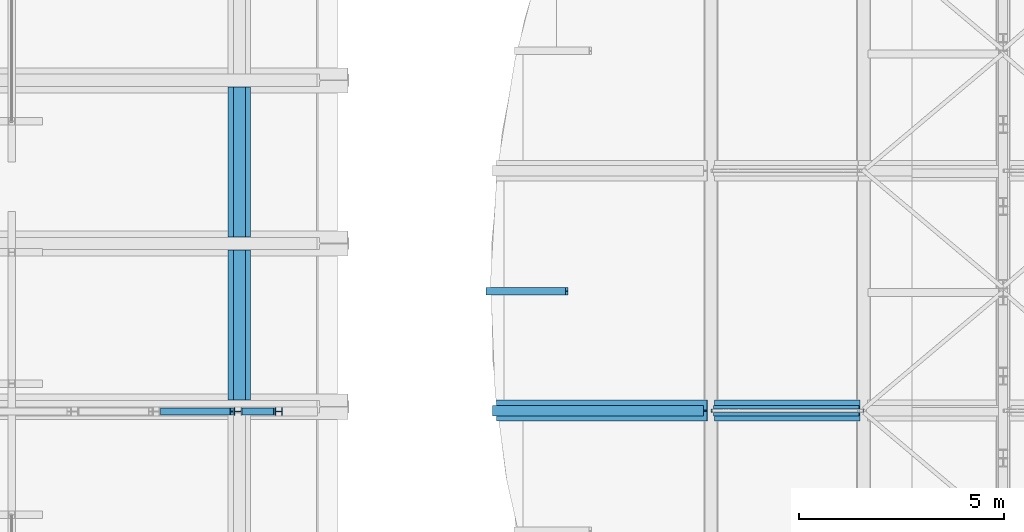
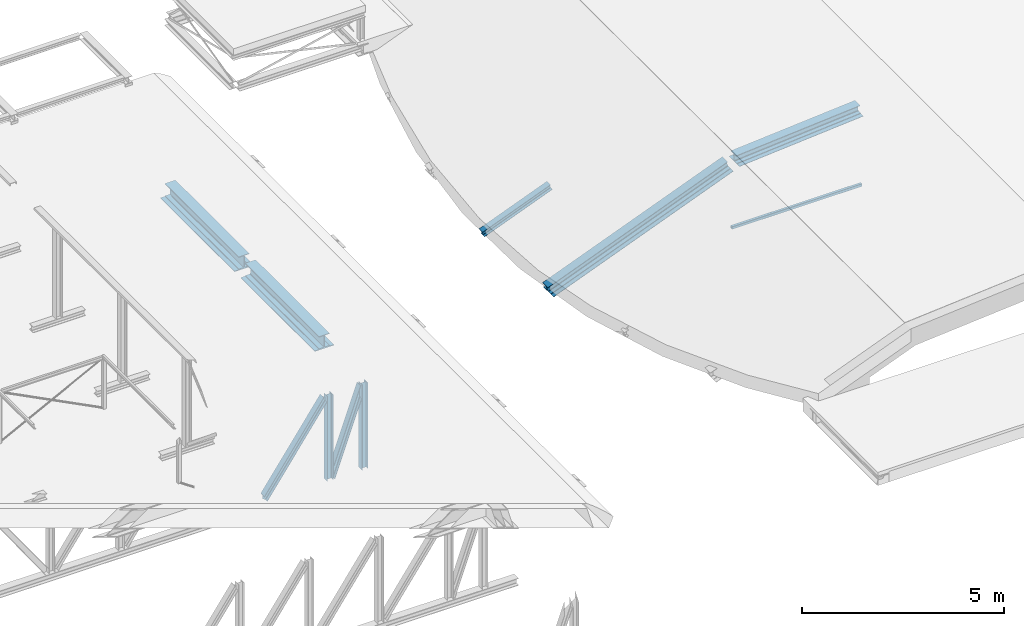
# One storey, part 21 of 50: 10 beams.
"""IFC2X3 building model written with IfcOpenShell, lengths in millimetres."""

from ifc_helpers import new_model, entity, si_unit, converted_unit, derived_unit, direction, frame, frame_2d, origin, place, context, subcontext, project, spatial, polyline, circle_curve, parameter, trimmed, segment, composite_curve, rectangle, i_section, outline, extrude, clip, halfspace, source, transform, mapped, material, material_list, type_object, type_shapes, element, save


model = new_model("IFC2X3")

# Units and contexts
model_context = context("Model", 3, precision=0.01, world=origin(), true_north=direction((6.12303176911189e-17, 1.0)))
body_context = subcontext(model_context, "Body", "Model", "MODEL_VIEW")
ifc_project = project(units=[si_unit("LENGTHUNIT", "METRE", prefix="MILLI"), si_unit("AREAUNIT", "SQUARE_METRE", prefix="MILLI"), si_unit("VOLUMEUNIT", "CUBIC_METRE"), converted_unit("PLANEANGLEUNIT", "DEGREE", entity("IfcRatioMeasure", 0.0174532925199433), si_unit("PLANEANGLEUNIT", "RADIAN"), dimensions=[0, 0, 0, 0, 0, 0, 0]), si_unit("MASSUNIT", "GRAM", prefix="KILO"), derived_unit("MASSDENSITYUNIT", [(si_unit("MASSUNIT", "GRAM", prefix="KILO"), 1), (si_unit("LENGTHUNIT", "METRE"), -3)]), derived_unit("MOMENTOFINERTIAUNIT", [(si_unit("LENGTHUNIT", "METRE"), 4)]), si_unit("TIMEUNIT", "SECOND"), si_unit("FREQUENCYUNIT", "HERTZ"), si_unit("THERMODYNAMICTEMPERATUREUNIT", "DEGREE_CELSIUS"), derived_unit("THERMALTRANSMITTANCEUNIT", [(si_unit("MASSUNIT", "GRAM", prefix="KILO"), 1), (si_unit("THERMODYNAMICTEMPERATUREUNIT", "KELVIN"), -1), (si_unit("TIMEUNIT", "SECOND"), -3)]), derived_unit("VOLUMETRICFLOWRATEUNIT", [(si_unit("LENGTHUNIT", "METRE"), 3), (si_unit("TIMEUNIT", "SECOND"), -1)]), si_unit("ELECTRICCURRENTUNIT", "AMPERE"), si_unit("ELECTRICVOLTAGEUNIT", "VOLT"), si_unit("POWERUNIT", "WATT"), si_unit("FORCEUNIT", "NEWTON", prefix="KILO"), si_unit("ILLUMINANCEUNIT", "LUX"), si_unit("LUMINOUSFLUXUNIT", "LUMEN"), si_unit("LUMINOUSINTENSITYUNIT", "CANDELA"), derived_unit("USERDEFINED", [(si_unit("MASSUNIT", "GRAM", prefix="KILO"), -1), (si_unit("LENGTHUNIT", "METRE"), -2), (si_unit("TIMEUNIT", "SECOND"), 3), (si_unit("LUMINOUSFLUXUNIT", "LUMEN"), 1)]), derived_unit("LINEARVELOCITYUNIT", [(si_unit("LENGTHUNIT", "METRE"), 1), (si_unit("TIMEUNIT", "SECOND"), -1)]), si_unit("PRESSUREUNIT", "PASCAL"), derived_unit("USERDEFINED", [(si_unit("LENGTHUNIT", "METRE"), -2), (si_unit("MASSUNIT", "GRAM", prefix="KILO"), 1), (si_unit("TIMEUNIT", "SECOND"), -2)]), derived_unit("LINEARFORCEUNIT", [(si_unit("MASSUNIT", "GRAM", prefix="KILO"), 1), (si_unit("LENGTHUNIT", "METRE"), 1), (si_unit("TIMEUNIT", "SECOND"), -2), (si_unit("LENGTHUNIT", "METRE"), -1)]), derived_unit("PLANARFORCEUNIT", [(si_unit("MASSUNIT", "GRAM", prefix="KILO"), 1), (si_unit("LENGTHUNIT", "METRE"), 1), (si_unit("TIMEUNIT", "SECOND"), -2), (si_unit("LENGTHUNIT", "METRE"), -2)])], contexts=[model_context])

# Site, building, storey
site_placement = place(None, origin())
site = spatial("IfcSite", under=ifc_project, at=site_placement, Name="Theater aan de Parade", CompositionType="ELEMENT")
building_placement = place(site_placement, origin())
building = spatial("IfcBuilding", under=site, at=building_placement, Name="Theater aan de Parade", CompositionType="ELEMENT")
storey_placement = place(building_placement, frame((0.0, 0.0, 15820.0)))
storey = spatial("IfcBuildingStorey", under=building, at=storey_placement, Name="04 vierde verdieping", CompositionType="ELEMENT", Elevation=15820.0)

# Beams
ifc_material_1 = material(Name="00_PBT_MAT_staal_S355")
beam_type_1 = type_object("IfcBeamType", Name="28_PBT_SF_staal_H-profiel:S355_HE180A", PredefinedType="NOTDEFINED")
beam_1_placement = place(storey_placement, frame((34071.8569884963, 29518.2922984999, -4340.0), z_axis=(1.0, 0.0, 0.0), x_axis=(0.0, 0.0, 1.0)))
element("IfcBeam", 1, at=beam_1_placement, inside=storey, type_object=beam_type_1, material=ifc_material_1, Name="28_PBT_SF_staal_H-profiel:S355_HE180A", ObjectType="28_PBT_SF_staal_H-profiel:S355_HE180A", context=body_context, shape_type="SweptSolid", body=[
    extrude(i_section(OverallWidth=179.999999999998, OverallDepth=171.0, WebThickness=6.00000000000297, FlangeThickness=9.49999999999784, FilletRadius=15.0000000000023, at=frame_2d((-2.16715534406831e-12, -2.16715534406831e-12), x_axis=(0.0, 1.0))), frame((122.7, 0.0, 0.0), z_axis=(1.0, 0.0, 0.0), x_axis=(0.0, 0.0, -1.0)), (0.0, 0.0, 1.0), 2574.60000000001),
])
beam_2_placement = place(storey_placement, frame((35067.8569884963, 29518.2922984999, -4340.0), z_axis=(1.0, 0.0, 0.0), x_axis=(0.0, 0.0, 1.0)))
element("IfcBeam", 2, at=beam_2_placement, inside=storey, type_object=beam_type_1, material=ifc_material_1, Name="28_PBT_SF_staal_H-profiel:S355_HE180A", ObjectType="28_PBT_SF_staal_H-profiel:S355_HE180A", context=body_context, shape_type="SweptSolid", body=[
    extrude(i_section(OverallWidth=179.999999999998, OverallDepth=171.0, WebThickness=6.00000000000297, FlangeThickness=9.49999999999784, FilletRadius=15.0000000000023, at=frame_2d((-2.16715534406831e-12, -2.16715534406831e-12), x_axis=(0.0, 1.0))), frame((110.0, 0.0, 0.0), z_axis=(1.0, 0.0, 0.0), x_axis=(0.0, 0.0, -1.0)), (0.0, 0.0, 1.0), 2587.29999999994),
])
beam_3_placement = place(storey_placement, frame((32079.8569884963, 29518.2922984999, -4340.0), z_axis=(0.816775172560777, 0.0, -0.576956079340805), x_axis=(0.576956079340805, 0.0, 0.816775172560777)))
element("IfcBeam", 3, at=beam_3_placement, inside=storey, type_object=beam_type_1, material=ifc_material_1, Name="28_PBT_SF_staal_H-profiel:S355_HE180A", ObjectType="28_PBT_SF_staal_H-profiel:S355_HE180A", context=body_context, shape_type="Clipping", body=[
    clip(clip(extrude(outline(composite_curve([segment(polyline([(76.0, -90.0), (85.5000000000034, -90.0)]), True, "CONTINUOUS"), segment(polyline([(85.499999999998, -90.0), (85.4999999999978, 90.0)]), True, "CONTINUOUS"), segment(polyline([(85.4999999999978, 90.0), (76.0, 90.0)]), True, "CONTINUOUS"), segment(polyline([(76.0, 90.0), (76.0, 18.0)]), True, "CONTINUOUS"), segment(trimmed(circle_curve(frame_2d((61.0, 18.0), x_axis=(1.0, 0.0)), 14.9999999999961), [parameter(269.999999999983)], [parameter(0.0)], True, "PARAMETER"), False, "CONTINUOUS"), segment(polyline([(61.0, 3.0), (-61.0, 3.0)]), True, "CONTINUOUS"), segment(trimmed(circle_curve(frame_2d((-61.0, 18.0), x_axis=(0.0, -1.0)), 14.9999999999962), [parameter(269.999999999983)], [parameter(0.0)], True, "PARAMETER"), False, "CONTINUOUS"), segment(polyline([(-76.0, 18.0), (-76.0, 90.0)]), True, "CONTINUOUS"), segment(polyline([(-76.0, 90.0), (-85.4999999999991, 90.0)]), True, "CONTINUOUS"), segment(polyline([(-85.4999999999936, 90.0), (-85.4999999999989, -90.0)]), True, "CONTINUOUS"), segment(polyline([(-85.4999999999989, -90.0), (-76.0, -90.0)]), True, "CONTINUOUS"), segment(polyline([(-76.0, -90.0), (-76.0, -18.0)]), True, "CONTINUOUS"), segment(trimmed(circle_curve(frame_2d((-61.0, -18.0), x_axis=(-1.0, 0.0)), 14.9999999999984), [parameter(269.999999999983)], [parameter(0.0)], True, "PARAMETER"), False, "CONTINUOUS"), segment(polyline([(-61.0, -3.0), (61.0, -3.0)]), True, "CONTINUOUS"), segment(trimmed(circle_curve(frame_2d((61.0, -18.0), x_axis=(0.0, 1.0)), 14.9999999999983), [parameter(269.999999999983)], [parameter(0.0)], True, "PARAMETER"), False, "CONTINUOUS"), segment(polyline([(76.0, -18.0), (76.0, -90.0)]), True, "CONTINUOUS")], self_intersect=False)), frame((207.771728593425, 0.0, 0.0), z_axis=(1.0, 0.0, 0.0), x_axis=(0.0, 0.0, -1.0)), (0.0, 0.0, 1.0), 3037.0590394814), halfspace(frame((144.751676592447, -110.0, 26.9163913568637), z_axis=(-0.576956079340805, 0.0, -0.816775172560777), x_axis=(0.816775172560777, 0.0, -0.576956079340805)), False)), halfspace(frame((1172.31045389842, 110.0, 1481.5929736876), z_axis=(0.576956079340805, 0.0, 0.816775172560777), x_axis=(0.816775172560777, 0.0, -0.576956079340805)), False)),
])
beam_4_placement = place(storey_placement, frame((34071.8569884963, 29518.2922984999, -4340.0), z_axis=(0.942916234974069, 0.0, -0.333029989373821), x_axis=(0.333029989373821, 0.0, 0.942916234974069)))
element("IfcBeam", 4, at=beam_4_placement, inside=storey, type_object=beam_type_1, material=ifc_material_1, Name="28_PBT_SF_staal_H-profiel:S355_HE180A", ObjectType="28_PBT_SF_staal_H-profiel:S355_HE180A", context=body_context, shape_type="Clipping", body=[
    clip(clip(extrude(outline(composite_curve([segment(polyline([(76.0, -90.0), (85.4999999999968, -90.0)]), True, "CONTINUOUS"), segment(polyline([(85.4999999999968, -90.0), (85.4999999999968, 90.0)]), True, "CONTINUOUS"), segment(polyline([(85.4999999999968, 90.0), (76.0, 90.0)]), True, "CONTINUOUS"), segment(polyline([(76.0, 90.0), (76.0, 18.0)]), True, "CONTINUOUS"), segment(trimmed(circle_curve(frame_2d((61.0, 18.0), x_axis=(1.0, 0.0)), 14.9999999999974), [parameter(269.999999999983)], [parameter(0.0)], True, "PARAMETER"), False, "CONTINUOUS"), segment(polyline([(61.0, 3.0), (-61.0, 3.0)]), True, "CONTINUOUS"), segment(trimmed(circle_curve(frame_2d((-61.0, 18.0), x_axis=(0.0, -1.0)), 15.0000000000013), [parameter(270.000000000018)], [parameter(0.0)], True, "PARAMETER"), False, "CONTINUOUS"), segment(polyline([(-76.0, 18.0), (-76.0, 90.0)]), True, "CONTINUOUS"), segment(polyline([(-76.0, 90.0), (-85.5000000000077, 90.0)]), True, "CONTINUOUS"), segment(polyline([(-85.5000000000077, 90.0), (-85.5000000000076, -90.0)]), True, "CONTINUOUS"), segment(polyline([(-85.5000000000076, -90.0), (-76.0, -90.0)]), True, "CONTINUOUS"), segment(polyline([(-76.0, -90.0), (-76.0, -18.0)]), True, "CONTINUOUS"), segment(trimmed(circle_curve(frame_2d((-61.0, -18.0), x_axis=(-1.0, 0.0)), 14.9999999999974), [parameter(269.999999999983)], [parameter(0.0)], True, "PARAMETER"), False, "CONTINUOUS"), segment(polyline([(-61.0, -3.0), (61.0, -3.0)]), True, "CONTINUOUS"), segment(trimmed(circle_curve(frame_2d((61.0, -18.0), x_axis=(0.0, 1.0)), 14.9999999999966), [parameter(269.999999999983)], [parameter(0.0)], True, "PARAMETER"), False, "CONTINUOUS"), segment(polyline([(76.0, -18.0), (76.0, -90.0)]), True, "CONTINUOUS")], self_intersect=False)), frame((159.557227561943, 0.0, 0.0), z_axis=(1.0, 0.0, 0.0), x_axis=(0.0, 0.0, -1.0)), (0.0, 0.0, 1.0), 2671.60719691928), halfspace(frame((131.972161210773, -110.0, 65.2754828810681), z_axis=(-0.333029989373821, 0.0, -0.942916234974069), x_axis=(0.942916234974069, 0.0, -0.333029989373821)), False)), halfspace(frame((381.425666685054, 110.0, 809.694208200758), z_axis=(0.333029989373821, 0.0, 0.942916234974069), x_axis=(0.942916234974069, 0.0, -0.333029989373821)), False)),
])
beam_5_placement = place(storey_placement, frame((40077.3191645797, 32450.0, -487.555637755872), z_axis=(-0.363251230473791, 0.0, 0.931691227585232), x_axis=(0.931691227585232, 0.0, 0.363251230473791)))
element("IfcBeam", 5, at=beam_5_placement, inside=storey, type_object=beam_type_1, material=ifc_material_1, Name="28_PBT_SF_staal_H-profiel:S355_HE180A", ObjectType="28_PBT_SF_staal_H-profiel:S355_HE180A", context=body_context, shape_type="SweptSolid", body=[
    extrude(i_section(OverallWidth=180.000000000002, OverallDepth=170.999999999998, WebThickness=6.00000000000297, FlangeThickness=9.49999999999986, FilletRadius=14.9999999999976, at=frame_2d((-2.02504679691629e-12, 2.16715534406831e-12), x_axis=(0.0, 1.0))), frame((0.0, 0.0, -205.500000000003), z_axis=(1.0, 0.0, 0.0), x_axis=(0.0, 0.0, -1.0)), (0.0, 0.0, 1.0), 2084.9855609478),
])
ifc_material_2 = material(Name="00_PBT_MAT_Lucht")
ifc_material_list_1 = material_list([ifc_material_2, ifc_material_1])
beam_type_2 = type_object("IfcBeamType", Name="28_PBT_SF_staal_H-profiel_met_onderplaat (void):S355_HE260A + onderplaat d=12", PredefinedType="BEAM", material=ifc_material_list_1)
shared_shape_1 = source(origin(), body_context, "Body", "SweptSolid", [
    extrude(rectangle(XDim=12.0, YDim=510.0, at=frame_2d((5.24469356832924e-13, -1.4210854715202e-14), x_axis=(1.0, 0.0))), frame((-1780.0, 0.0, -131.0), z_axis=(1.0, 0.0, 0.0), x_axis=(0.0, 0.0, -1.0)), (0.0, 0.0, 1.0), 3560.00000000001),
    extrude(i_section(OverallWidth=260.0, OverallDepth=250.0, WebThickness=7.49999999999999, FlangeThickness=12.4999999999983, FilletRadius=24.0, at=frame_2d((-3.90798504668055e-13, 0.0), x_axis=(0.0, 1.0))), frame((-1780.0, 0.0, 0.0), z_axis=(1.0, 0.0, 0.0), x_axis=(0.0, 0.0, -1.0)), (0.0, 0.0, 1.0), 3560.00000000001),
])
type_shapes(beam_type_2, [shared_shape_1])
beam_6_placement = place(storey_placement, frame((47462.0504275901, 29537.9879914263, 1577.30470019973), z_axis=(-0.0796770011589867, 0.0, 0.996820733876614), x_axis=(0.996820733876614, 0.0, 0.0796770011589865)))
element("IfcBeam", 6, at=beam_6_placement, inside=storey, type_object=beam_type_2, material=ifc_material_1, Name="28_PBT_SF_staal_H-profiel_met_onderplaat (void):S355_HE260A + onderplaat d=12", ObjectType="28_PBT_SF_staal_H-profiel_met_onderplaat (void):S355_HE260A + onderplaat d=12", context=body_context, shape_type="MappedRepresentation", body=[
    mapped(shared_shape_1, transform((0.0, 0.0, 0.0), scale=1.0)),
])
ifc_material_list_2 = material_list([ifc_material_2, ifc_material_1])
beam_type_3 = type_object("IfcBeamType", Name="28_PBT_SF_staal_H-profiel_met_onderplaat (void):S355_HE260A + onderplaat d=12", PredefinedType="BEAM", material=ifc_material_list_2)
shared_shape_2 = source(origin(), body_context, "Body", "SweptSolid", [
    extrude(rectangle(XDim=12.0, YDim=510.0, at=frame_2d((1.50590651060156e-12, -1.4210854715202e-14), x_axis=(1.0, 0.0))), frame((-2760.0, 0.0, -131.0), z_axis=(1.0, 0.0, 0.0), x_axis=(0.0, 0.0, -1.0)), (0.0, 0.0, 1.0), 5520.0),
    extrude(i_section(OverallWidth=260.0, OverallDepth=250.0, WebThickness=7.49999999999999, FlangeThickness=12.4999999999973, FilletRadius=24.0, at=frame_2d((-4.12114786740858e-13, 0.0), x_axis=(0.0, 1.0))), frame((-2760.0, 0.0, 0.0), z_axis=(1.0, 0.0, 0.0), x_axis=(0.0, 0.0, -1.0)), (0.0, 0.0, 1.0), 5520.0),
])
type_shapes(beam_type_3, [shared_shape_2])
beam_7_placement = place(storey_placement, frame((42902.4010995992, 29537.9879914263, 345.568541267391), z_axis=(-0.363251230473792, 0.0, 0.931691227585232), x_axis=(0.931691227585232, 0.0, 0.363251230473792)))
element("IfcBeam", 7, at=beam_7_placement, inside=storey, type_object=beam_type_3, material=ifc_material_1, Name="28_PBT_SF_staal_H-profiel_met_onderplaat (void):S355_HE260A + onderplaat d=12", ObjectType="28_PBT_SF_staal_H-profiel_met_onderplaat (void):S355_HE260A + onderplaat d=12", context=body_context, shape_type="MappedRepresentation", body=[
    mapped(shared_shape_2, transform((0.0, 0.0, 0.0), scale=1.0)),
])
ifc_material_list_3 = material_list([ifc_material_1, ifc_material_2])
beam_type_4 = type_object("IfcBeamType", Name="28_PBT_SF_staal_H-profiel_met_onderplaat (void):S355_HE400A + onderplaat d=20", PredefinedType="BEAM", material=ifc_material_list_3)
shared_shape_3 = source(origin(), body_context, "Body", "SweptSolid", [
    extrude(rectangle(XDim=20.0, YDim=550.0, at=frame_2d((3.37507799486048e-14, 0.0), x_axis=(1.0, 0.0))), frame((-1832.24999999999, 0.0, -205.0), z_axis=(1.0, 0.0, 0.0), x_axis=(0.0, 0.0, -1.0)), (0.0, 0.0, 1.0), 3664.50000000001),
    extrude(outline(composite_curve([segment(polyline([(176.0, -150.0), (195.0, -150.0)]), True, "CONTINUOUS"), segment(polyline([(195.0, -150.0), (195.0, 150.0)]), True, "CONTINUOUS"), segment(polyline([(195.0, 150.0), (176.0, 150.0)]), True, "CONTINUOUS"), segment(polyline([(176.0, 150.0), (176.0, 32.5)]), True, "CONTINUOUS"), segment(trimmed(circle_curve(frame_2d((149.0, 32.4999999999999), x_axis=(1.0, 0.0)), 26.9999999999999), [parameter(270.0)], [parameter(0.0)], True, "PARAMETER"), False, "CONTINUOUS"), segment(polyline([(149.0, 5.49999999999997), (-149.0, 5.49999999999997)]), True, "CONTINUOUS"), segment(trimmed(circle_curve(frame_2d((-149.0, 32.5), x_axis=(0.0, -1.0)), 27.0), [parameter(270.0)], [parameter(0.0)], True, "PARAMETER"), False, "CONTINUOUS"), segment(polyline([(-176.0, 32.5), (-176.0, 150.0)]), True, "CONTINUOUS"), segment(polyline([(-176.0, 150.0), (-195.0, 150.0)]), True, "CONTINUOUS"), segment(polyline([(-195.0, 150.0), (-195.0, -150.0)]), True, "CONTINUOUS"), segment(polyline([(-195.0, -150.0), (-176.0, -150.0)]), True, "CONTINUOUS"), segment(polyline([(-176.0, -150.0), (-176.0, -32.5)]), True, "CONTINUOUS"), segment(trimmed(circle_curve(frame_2d((-149.0, -32.5), x_axis=(-1.0, 0.0)), 26.9999999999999), [parameter(269.999999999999)], [parameter(0.0)], True, "PARAMETER"), False, "CONTINUOUS"), segment(polyline([(-149.0, -5.50000000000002), (149.0, -5.50000000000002)]), True, "CONTINUOUS"), segment(trimmed(circle_curve(frame_2d((149.0, -32.4999999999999), x_axis=(0.0, 1.0)), 26.9999999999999), [parameter(270.0)], [parameter(0.0)], True, "PARAMETER"), False, "CONTINUOUS"), segment(polyline([(176.0, -32.5), (176.0, -150.0)]), True, "CONTINUOUS")], self_intersect=False)), frame((-1832.24999999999, 0.0, 0.0), z_axis=(1.0, 0.0, 0.0), x_axis=(0.0, 0.0, -1.0)), (0.0, 0.0, 1.0), 3664.50000000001),
])
type_shapes(beam_type_4, [shared_shape_3])
beam_8_placement = place(storey_placement, frame((34109.3570025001, 31624.2274014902, -235.0), z_axis=(0.0, 0.0, 1.0), x_axis=(0.0, 1.0, 0.0)))
element("IfcBeam", 8, at=beam_8_placement, inside=storey, type_object=beam_type_4, material=ifc_material_1, Name="28_PBT_SF_staal_H-profiel_met_onderplaat (void):S355_HE400A + onderplaat d=20", ObjectType="28_PBT_SF_staal_H-profiel_met_onderplaat (void):S355_HE400A + onderplaat d=20", context=body_context, shape_type="MappedRepresentation", body=[
    mapped(shared_shape_3, transform((0.0, 0.0, 0.0), scale=1.0)),
])
ifc_material_list_4 = material_list([ifc_material_2, ifc_material_1])
beam_type_5 = type_object("IfcBeamType", Name="28_PBT_SF_staal_H-profiel_met_onderplaat (void):S355_HE400A + onderplaat d=20", PredefinedType="BEAM", material=ifc_material_list_4)
shared_shape_4 = source(origin(), body_context, "Body", "SweptSolid", [
    extrude(i_section(OverallWidth=300.000000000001, OverallDepth=390.0, WebThickness=11.0000000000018, FlangeThickness=19.0, FilletRadius=26.9999999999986, at=frame_2d((2.17426077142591e-12, -1.08002495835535e-12), x_axis=(1.0, 0.0))), frame((34109.3570025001, 33771.9774014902, 15585.0), z_axis=(0.0, 1.0, 0.0), x_axis=(-1.0, 0.0, 0.0)), (0.0, 0.0, 1.0), 3664.50000000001),
    extrude(rectangle(XDim=19.9999999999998, YDim=550.000000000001, at=frame_2d((2.18847162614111e-12, -1.08268949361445e-12), x_axis=(0.0, 1.0))), frame((34109.3570025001, 33771.9774014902, 15380.0), z_axis=(0.0, 1.0, 0.0), x_axis=(-1.0, 0.0, 0.0)), (0.0, 0.0, 1.0), 3664.50000000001),
])
type_shapes(beam_type_5, [shared_shape_4])
beam_9_placement = place(storey_placement, frame((0.0, 0.0, -15820.0)))
element("IfcBeam", 9, at=beam_9_placement, inside=storey, type_object=beam_type_5, material=ifc_material_1, Name="28_PBT_SF_staal_H-profiel_met_onderplaat (void):S355_HE400A + onderplaat d=20", ObjectType="28_PBT_SF_staal_H-profiel_met_onderplaat (void):S355_HE400A + onderplaat d=20", context=body_context, shape_type="MappedRepresentation", body=[
    mapped(shared_shape_4, transform((0.0, 0.0, 0.0), scale=1.0)),
])
beam_type_6 = type_object("IfcBeamType", Name="28_PBT_SF_staal_koker:S355_K80x80x5", PredefinedType="NOTDEFINED")
beam_10_placement = place(storey_placement, frame((45614.5000000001, 29537.9879914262, -660.0)))
element("IfcBeam", 10, at=beam_10_placement, inside=storey, type_object=beam_type_6, material=ifc_material_1, Name="28_PBT_SF_staal_koker:S355_K80x80x5", ObjectType="28_PBT_SF_staal_koker:S355_K80x80x5", context=body_context, shape_type="SweptSolid", body=[
    extrude(outline(composite_curve([segment(polyline([(-32.4999999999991, -40.0), (32.5000000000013, -40.0)]), True, "CONTINUOUS"), segment(trimmed(circle_curve(frame_2d((32.4999999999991, -32.5000000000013), x_axis=(0.0, 1.0)), 7.5), [parameter(180.0)], [parameter(270.0)], True, "PARAMETER"), True, "CONTINUOUS"), segment(polyline([(40.0, -32.5000000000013), (40.0, 32.5000000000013)]), True, "CONTINUOUS"), segment(trimmed(circle_curve(frame_2d((32.4999999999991, 32.4999999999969), x_axis=(0.0, 1.0)), 7.5), [parameter(270.0)], [parameter(360.0)], True, "PARAMETER"), True, "CONTINUOUS"), segment(polyline([(32.5000000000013, 40.0), (-32.4999999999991, 40.0)]), True, "CONTINUOUS"), segment(trimmed(circle_curve(frame_2d((-32.5000000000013, 32.4999999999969), x_axis=(0.0, 1.0)), 7.5), [parameter(0.0)], [parameter(90.0000000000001)], True, "PARAMETER"), True, "CONTINUOUS"), segment(polyline([(-40.0, 32.5000000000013), (-40.0, -32.5000000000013)]), True, "CONTINUOUS"), segment(trimmed(circle_curve(frame_2d((-32.5000000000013, -32.5000000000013), x_axis=(0.0, 1.0)), 7.5), [parameter(90.0)], [parameter(180.0)], True, "PARAMETER"), True, "CONTINUOUS")], self_intersect=False), holes=[composite_curve([segment(polyline([(35.0, 30.0), (35.0, -30.0)]), True, "CONTINUOUS"), segment(trimmed(circle_curve(frame_2d((30.0, -30.0), x_axis=(0.0, 1.0)), 5.0), [parameter(180.0)], [parameter(270.0)], True, "PARAMETER"), False, "CONTINUOUS"), segment(polyline([(30.0, -35.0), (-30.0, -35.0)]), True, "CONTINUOUS"), segment(trimmed(circle_curve(frame_2d((-30.0, -30.0), x_axis=(0.0, 1.0)), 5.0), [parameter(90.0)], [parameter(180.0)], True, "PARAMETER"), False, "CONTINUOUS"), segment(polyline([(-35.0, -30.0), (-35.0, 30.0)]), True, "CONTINUOUS"), segment(trimmed(circle_curve(frame_2d((-30.0, 30.0), x_axis=(0.0, 1.0)), 5.0), [parameter(4.07110999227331e-13)], [parameter(90.0000000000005)], True, "PARAMETER"), False, "CONTINUOUS"), segment(polyline([(-30.0, 35.0), (30.0, 35.0)]), True, "CONTINUOUS"), segment(trimmed(circle_curve(frame_2d((30.0, 30.0), x_axis=(0.0, 1.0)), 5.0), [parameter(270.0)], [parameter(5.08888749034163e-14)], True, "PARAMETER"), False, "CONTINUOUS")], self_intersect=False)]), frame((0.0, 0.0, 0.0), z_axis=(1.0, 0.0, 0.0), x_axis=(0.0, 0.0, 1.0)), (0.0, 0.0, 1.0), 3715.7500000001),
])

save(model, "model.ifc")
